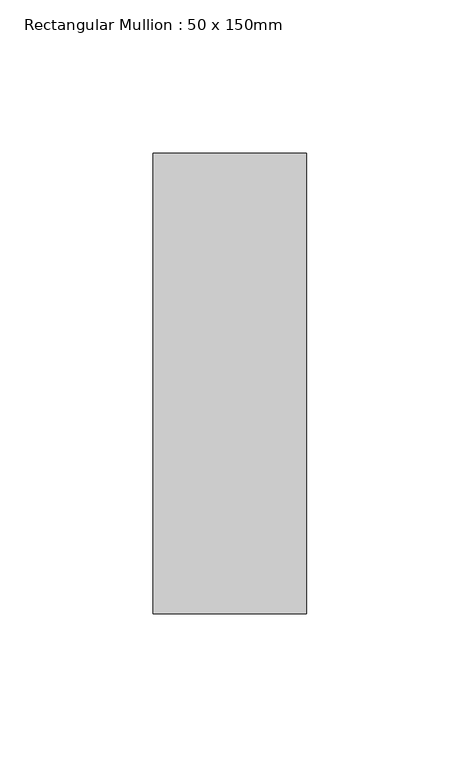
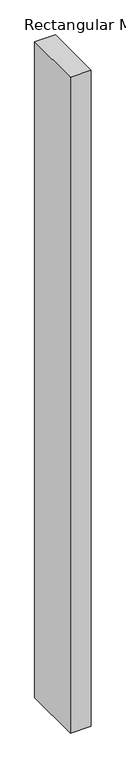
"""IFC4 building model written with IfcOpenShell, lengths in millimetres: member geometry, Rectangular Mullion : 50 x 150mm."""

import ifcopenshell
import ifcopenshell.guid

model = None  # the IFC model being written
_history = None  # IfcOwnerHistory: only IFC2X3 demands one
_inside = {}  # id of a spatial element -> (the spatial element, [elements in it])
_under = {}  # id of a project, library or spatial element -> (it, [spatial elements below it])
_declared = {}  # id of a project -> (the project, [libraries it declares])
_typed = {}  # id of a type object -> (the type object, [elements of that type])
_made_of = {}  # id of a material, layer set ... -> (it, [elements and type objects made of it])


def new_model(schema):
    """Start an empty IFC model of exactly this schema.

    Asked for "IFC4X3", IfcOpenShell would pick the latest addendum, in which some entities
    have other attributes; the version numbers below select the first issue.
    IFC2X3 requires an IfcOwnerHistory on every rooted entity: one is made here for all.
    """
    global model, _history
    if schema == "IFC4X3":
        model = ifcopenshell.file(schema_version=(4, 3, 0, 0))
    else:
        model = ifcopenshell.file(schema=schema)
    _inside.clear()
    _under.clear()
    _declared.clear()
    _typed.clear()
    _made_of.clear()
    _history = None
    if model.schema == "IFC2X3":
        org = make("IfcOrganization", Name="unknown")
        user = make(
            "IfcPersonAndOrganization",
            ThePerson=make("IfcPerson", FamilyName="unknown"),
            TheOrganization=org,
        )
        app = make(
            "IfcApplication",
            ApplicationDeveloper=org,
            Version="unknown",
            ApplicationFullName="unknown",
            ApplicationIdentifier="unknown",
        )
        _history = make(
            "IfcOwnerHistory",
            OwningUser=user,
            OwningApplication=app,
            ChangeAction="ADDED",
            CreationDate=0,
        )
    return model


def make(cls, **values):
    """One entity of the class cls with the attributes given. An attribute that is None is left unset."""
    return model.create_entity(
        cls, **{name: value for name, value in values.items() if value is not None}
    )


def rooted(cls, **values):
    """An entity with a GlobalId (a new one), such as an element, a storey or a relation."""
    return make(cls, GlobalId=ifcopenshell.guid.new(), OwnerHistory=_history, **values)


def si_unit(unit_type, name, prefix=None):
    """IfcSIUnit, for example si_unit("LENGTHUNIT", "METRE", prefix="MILLI")."""
    return make("IfcSIUnit", UnitType=unit_type, Prefix=prefix, Name=name)


def assignment(units):
    """IfcUnitAssignment: the units of a project."""
    return None if units is None else make("IfcUnitAssignment", Units=units)


def point(xyz):
    """IfcCartesianPoint."""
    return None if xyz is None else make("IfcCartesianPoint", Coordinates=xyz)


def direction(xyz):
    """IfcDirection."""
    return None if xyz is None else make("IfcDirection", DirectionRatios=xyz)


def frame(location, z_axis=None, x_axis=None):
    """IfcAxis2Placement3D, a coordinate frame: its origin and axes. An axis left out is left unset."""
    return make(
        "IfcAxis2Placement3D",
        Location=point(location),
        Axis=direction(z_axis),
        RefDirection=direction(x_axis),
    )


def origin():
    """The frame at (0, 0, 0) with its axes left unset."""
    return frame((0.0, 0.0, 0.0))


def place(relative_to, where):
    """IfcLocalPlacement: puts the frame where relative to a parent placement (None: the world)."""
    return make(
        "IfcLocalPlacement", PlacementRelTo=relative_to, RelativePlacement=where
    )


def context(
    kind, dimensions, precision=None, world=None, true_north=None, identifier=None
):
    """IfcGeometricRepresentationContext, for example the 3D "Model" context."""
    return make(
        "IfcGeometricRepresentationContext",
        ContextIdentifier=identifier,
        ContextType=kind,
        CoordinateSpaceDimension=dimensions,
        Precision=precision,
        WorldCoordinateSystem=world,
        TrueNorth=true_north,
    )


def project(units=None, contexts=None):
    """IfcProject with its units and contexts."""
    return rooted(
        "IfcProject",
        Name="project",
        RepresentationContexts=contexts,
        UnitsInContext=assignment(units),
    )


def spatial(cls, under=None, at=None, **own):
    """A site, building, storey or space (cls), placed at a placement, below another one or the project."""
    s = rooted(cls, ObjectPlacement=at, **own)
    if under is not None:
        _under.setdefault(under.id(), (under, []))[1].append(s)
    return s


def polyline(points):
    """IfcPolyline through the points."""
    return make("IfcPolyline", Points=[point(p) for p in points])


def outline(outer, holes=None, kind="AREA"):
    """IfcArbitraryClosedProfileDef: a profile drawn as a closed curve; with holes, ...WithVoids."""
    if holes is None:
        return make("IfcArbitraryClosedProfileDef", ProfileType=kind, OuterCurve=outer)
    return make(
        "IfcArbitraryProfileDefWithVoids",
        ProfileType=kind,
        OuterCurve=outer,
        InnerCurves=holes,
    )


def extrude(swept, where, along, depth):
    """IfcExtrudedAreaSolid: the profile swept, set in the frame where, extruded along a direction by depth."""
    return make(
        "IfcExtrudedAreaSolid",
        SweptArea=swept,
        Position=where,
        ExtrudedDirection=direction(along),
        Depth=depth,
    )


def shape(context_of_items, identifier, shape_type, items):
    """IfcShapeRepresentation: the items that make up one representation, for example the "Body"."""
    return make(
        "IfcShapeRepresentation",
        ContextOfItems=context_of_items,
        RepresentationIdentifier=identifier,
        RepresentationType=shape_type,
        Items=items,
    )


def source(mapping_origin, context_of_items, identifier, shape_type, items):
    """IfcRepresentationMap: a shape defined once, which mapped items show again and again."""
    return make(
        "IfcRepresentationMap",
        MappingOrigin=mapping_origin,
        MappedRepresentation=shape(context_of_items, identifier, shape_type, items),
    )


def transform(
    local_origin,
    x_axis=None,
    y_axis=None,
    z_axis=None,
    scale=None,
    scale2=None,
    scale3=None,
    uniform=True,
):
    """IfcCartesianTransformationOperator3D, or its non-uniform kind. x_axis, y_axis, z_axis: its Axis1, 2, 3."""
    if uniform:
        return make(
            "IfcCartesianTransformationOperator3D",
            Axis1=direction(x_axis),
            Axis2=direction(y_axis),
            LocalOrigin=point(local_origin),
            Scale=scale,
            Axis3=direction(z_axis),
        )
    return make(
        "IfcCartesianTransformationOperator3DnonUniform",
        Axis1=direction(x_axis),
        Axis2=direction(y_axis),
        LocalOrigin=point(local_origin),
        Scale=scale,
        Axis3=direction(z_axis),
        Scale2=scale2,
        Scale3=scale3,
    )


def mapped(mapping_source, mapping_target):
    """IfcMappedItem: shows the shape of a source again, moved by a transform."""
    return make(
        "IfcMappedItem", MappingSource=mapping_source, MappingTarget=mapping_target
    )


def made_of(thing, what):
    """Note that an element or type object is made of a material, layer set ...; save() writes the relation."""
    if what is not None:
        _made_of.setdefault(what.id(), (what, []))[1].append(thing)
    return thing


def element(
    cls,
    number,
    at=None,
    inside=None,
    cuts=None,
    type_object=None,
    material=None,
    context=None,
    identifier="Body",
    shape_type=None,
    held_by="IfcProductDefinitionShape",
    body=None,
    shapes=None,
    **own,
):
    """One element of the class cls, such as IfcWall. Its Tag is "e" and its number.

    at: its placement. inside: the storey or other place that contains it. cuts: it is an
    opening in that element (IfcRelVoidsElement). A single representation is given by context,
    identifier, shape_type and body (its items); several are given by shapes. held_by: the class
    of the entity that holds the representations. save() writes the other relations.
    """
    e = rooted(cls, Tag="e%d" % number, ObjectPlacement=at, **own)
    if body is not None:
        shapes = [shape(context, identifier, shape_type, body)]
    if shapes is not None:
        e.Representation = make(held_by, Representations=shapes)
    if inside is not None:
        _inside.setdefault(inside.id(), (inside, []))[1].append(e)
    if cuts is not None:
        rooted(
            "IfcRelVoidsElement", RelatingBuildingElement=cuts, RelatedOpeningElement=e
        )
    if type_object is not None:
        _typed.setdefault(type_object.id(), (type_object, []))[1].append(e)
    return made_of(e, material)


def aggregate(whole, parts):
    """IfcRelAggregates: a whole, such as a stair, and the parts it consists of."""
    return rooted("IfcRelAggregates", RelatingObject=whole, RelatedObjects=parts)


def save(model, path):
    """Write the relations noted so far, then the file.

    IfcRelAggregates (storeys below a building ...), IfcRelContainedInSpatialStructure (elements
    in a storey), IfcRelDefinesByType, IfcRelAssociatesMaterial and IfcRelDeclares: one each for
    every whole, place, type object, material and project.
    """
    for whole, parts in _under.values():
        aggregate(whole, parts)
    for where, things in _inside.values():
        rooted(
            "IfcRelContainedInSpatialStructure",
            RelatedElements=things,
            RelatingStructure=where,
        )
    for kind, things in _typed.values():
        rooted("IfcRelDefinesByType", RelatedObjects=things, RelatingType=kind)
    for what, things in _made_of.values():
        rooted("IfcRelAssociatesMaterial", RelatedObjects=things, RelatingMaterial=what)
    for by, libraries in _declared.values():
        rooted("IfcRelDeclares", RelatingContext=by, RelatedDefinitions=libraries)
    model.write(path)


def rectangular_mullion_50_x_150mm_f682063e(model_context):
    return source(origin(), model_context, "Body", "SweptSolid", [
        extrude(outline(polyline([(0.0, 75.0), (0.0, -75.0), (-50.0, -75.0), (-50.0, 75.0), (0.0, 75.0)])), frame((0.0, 0.0, -1677.2), z_axis=(0.0, 0.0, 1.0), x_axis=(1.0, 0.0, 0.0)), (0.0, 0.0, 1.0), 1677.2),
    ])


if __name__ == "__main__":
    model = new_model("IFC4")
    model_context = context("Model", 3, world=origin())
    ifc_project = project(units=[si_unit("LENGTHUNIT", "METRE", prefix="MILLI")], contexts=[model_context])
    site = spatial("IfcSite", under=ifc_project)
    building = spatial("IfcBuilding", under=site)
    placement = place(None, origin())
    rectangular_mullion_50_x_150mm_shape = rectangular_mullion_50_x_150mm_f682063e(model_context)
    element("IfcMember", 1, ObjectType="Rectangular Mullion : 50 x 150mm", at=placement, inside=building, context=model_context, shape_type="MappedRepresentation", body=[
        mapped(rectangular_mullion_50_x_150mm_shape, transform((0.0, 0.0, 0.0), x_axis=(1.0, 0.0, 0.0), y_axis=(0.0, 1.0, 0.0), z_axis=(0.0, 0.0, 1.0))),
    ])
    save(model, "model.ifc")
